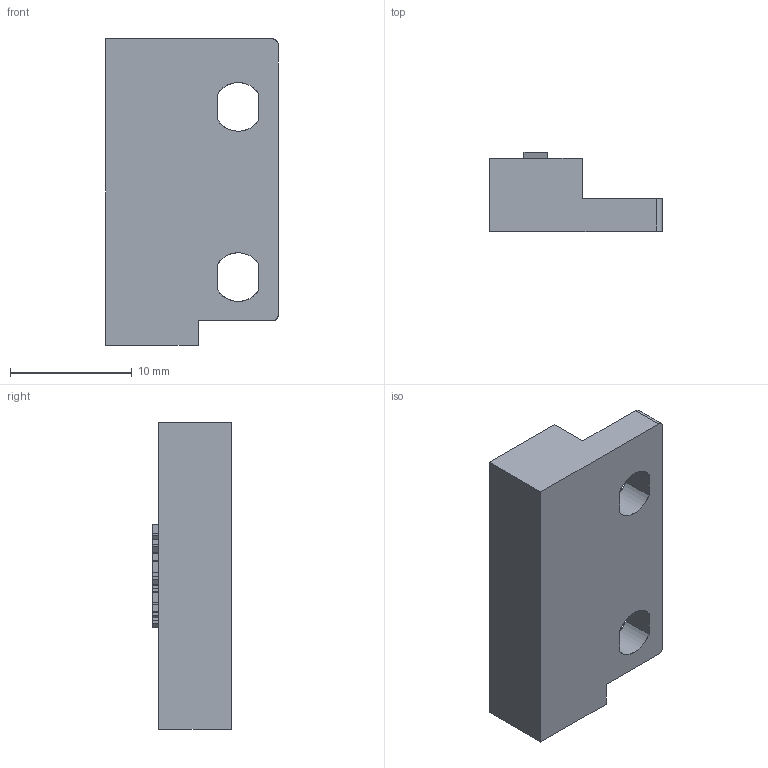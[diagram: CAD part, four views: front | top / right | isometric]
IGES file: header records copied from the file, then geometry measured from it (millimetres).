
Start section: SolidWorks IGES file using analytic representation for surfaces
Global section: file name: D:\X - Arquivos\PROEX\Empresas\P11 - METALTEX\01 - Produtos\IGES\7ª remessa\2ª etapa\SM1000.IGS; native system: SolidWorks 2012; preprocessor: SolidWorks 2012; author: Usuario; date: 190912.140518; units: millimetre
Bounding box: 14.2 x 6.5 x 25.2 mm (x, y, z)
Surface area: 1187.8 mm2 (no closed solid volume)
Topology: 0 solids, 0 shells, 117 faces, 670 edges, 670 vertices
Faces by surface type: bspline 109, revolution 8
